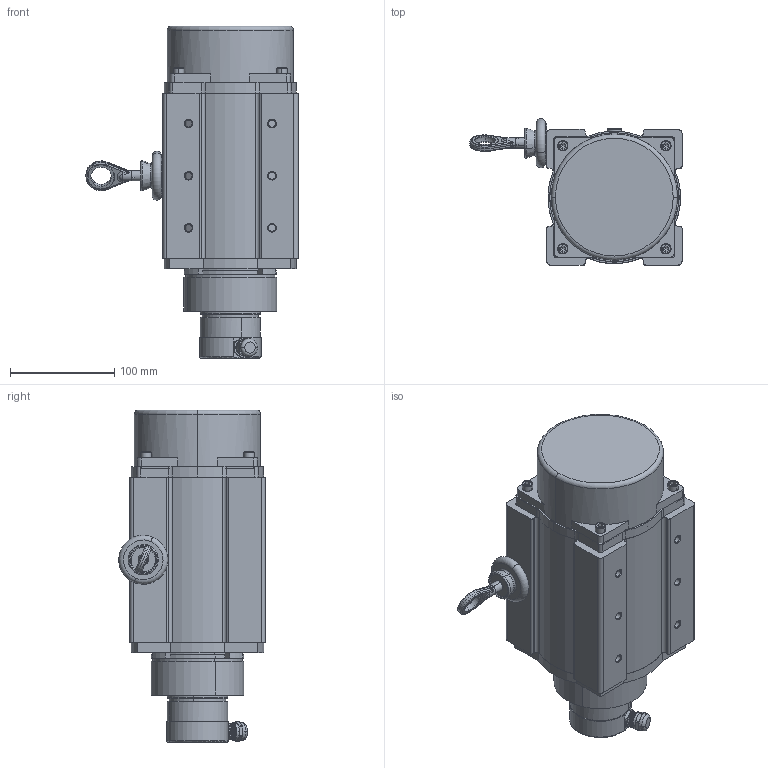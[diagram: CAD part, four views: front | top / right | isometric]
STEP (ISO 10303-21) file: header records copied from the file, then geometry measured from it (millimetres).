
FILE_DESCRIPTION (( 'STEP AP214' ), '1' );
FILE_NAME ('15米-装配夹紧发兰5810编码器.step', '2025-04-20T14:44:40', ( '' ), ( '' ), 'SwSTEP 2.0', 'SolidWorks 2024', '' );
FILE_SCHEMA (( 'AUTOMOTIVE_DESIGN' ));
Length unit declared in the file: millimetre
Products named in the file (1): 15米-装配夹紧发兰5810编码器
Bounding box: 203.5 x 140.48 x 318.5 mm (x, y, z)
Surface area: 429460.2 mm2 (no closed solid volume)
Topology: 0 solids, 265 shells, 1438 faces, 4596 edges, 3413 vertices
Faces by surface type: plane 614, cylinder 554, cone 152, bspline 72, torus 32, sphere 14
Entity records: 68787 total; most frequent: CARTESIAN_POINT 30411, ORIENTED_EDGE 7533, DIRECTION 7219, EDGE_CURVE 4567, VERTEX_POINT 3404, AXIS2_PLACEMENT_3D 2680, LINE 1859, VECTOR 1859
